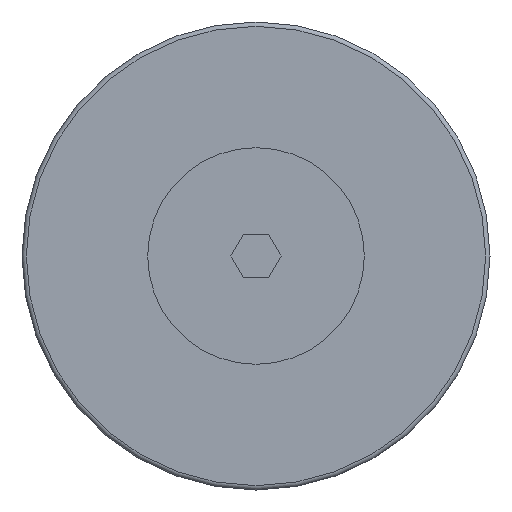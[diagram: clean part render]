
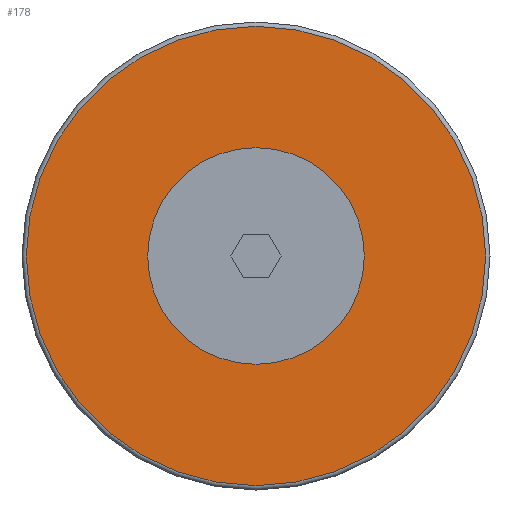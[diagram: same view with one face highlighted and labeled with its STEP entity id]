
A CAD part, front view. The second image highlights one B-rep face of the part: STEP entity #178.
In plain terms, the highlighted planar face has unit normal (0, -1, 0).
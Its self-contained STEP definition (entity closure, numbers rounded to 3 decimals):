
#178=ADVANCED_FACE('',(#252,#253),#254,.F.);
#252=FACE_BOUND('',#391,.T.);
#253=FACE_OUTER_BOUND('',#392,.T.);
#254=PLANE('',#393);
#391=EDGE_LOOP('',(#554));
#392=EDGE_LOOP('',(#555));
#393=AXIS2_PLACEMENT_3D('',#556,#557,#558);
#554=ORIENTED_EDGE('',*,*,#935,.F.);
#555=ORIENTED_EDGE('',*,*,#934,.T.);
#556=CARTESIAN_POINT('',(-26.5,-33.,0.));
#557=DIRECTION('',(0.0,1.0,0.0));
#558=DIRECTION('',(0.0,0.0,1.0));
#934=EDGE_CURVE('',#1068,#1068,#1069,.T.);
#935=EDGE_CURVE('',#1070,#1070,#1071,.T.);
#1068=VERTEX_POINT('',#1272);
#1069=CIRCLE('',#1273,26.5);
#1070=VERTEX_POINT('',#1274);
#1071=CIRCLE('',#1275,12.5);
#1272=CARTESIAN_POINT('',(0.,-33.,-26.5));
#1273=AXIS2_PLACEMENT_3D('',#1646,#1647,#1648);
#1274=CARTESIAN_POINT('',(0.,-33.,-12.5));
#1275=AXIS2_PLACEMENT_3D('',#1649,#1650,#1651);
#1646=CARTESIAN_POINT('',(0.,-33.,0.));
#1647=DIRECTION('',(0.0,-1.0,0.0));
#1648=DIRECTION('',(0.0,0.0,-1.0));
#1649=CARTESIAN_POINT('',(0.,-33.,0.));
#1650=DIRECTION('',(0.0,-1.0,0.0));
#1651=DIRECTION('',(0.0,0.0,-1.0));
